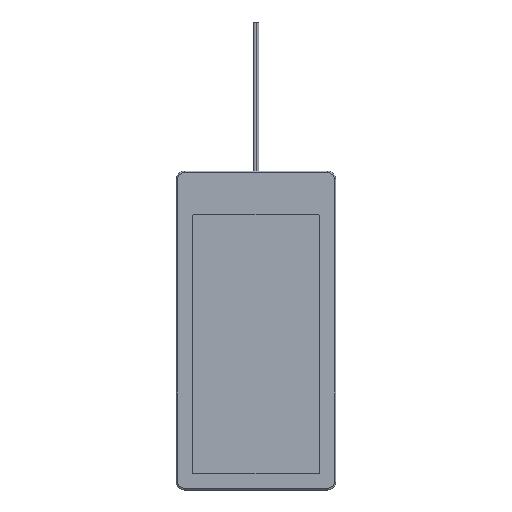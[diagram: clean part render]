
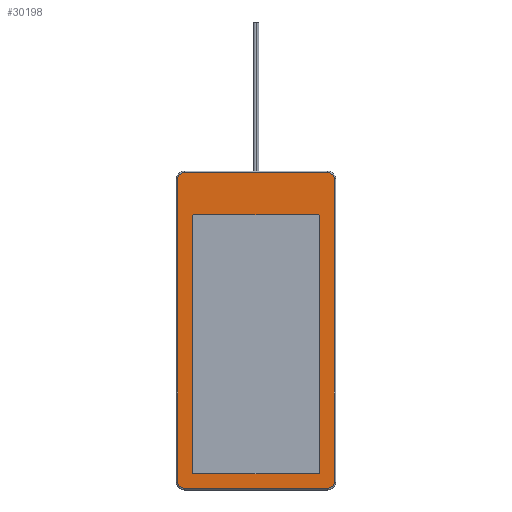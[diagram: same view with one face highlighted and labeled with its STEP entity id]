
A CAD part, top view. The second image highlights one B-rep face of the part: STEP entity #30198.
In plain terms, the highlighted planar face has unit normal (0, 0, 1).
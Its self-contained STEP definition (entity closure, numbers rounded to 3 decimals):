
#29429=DIRECTION('',(0.,-1.,0.));
#29430=VECTOR('',#29429,190.);
#29431=CARTESIAN_POINT('',(-48.551,597.406,6.5));
#29432=LINE('',#29431,#29430);
#29433=CARTESIAN_POINT('',(-44.551,597.406,6.5));
#29434=DIRECTION('',(0.,0.,1.));
#29435=DIRECTION('',(0.,1.,0.));
#29436=AXIS2_PLACEMENT_3D('',#29433,#29434,#29435);
#29438=DIRECTION('',(-1.,0.,0.));
#29439=VECTOR('',#29438,90.);
#29440=CARTESIAN_POINT('',(45.449,601.406,6.5));
#29441=LINE('',#29440,#29439);
#29442=CARTESIAN_POINT('',(45.449,597.406,6.5));
#29443=DIRECTION('',(0.,0.,1.));
#29444=DIRECTION('',(1.,0.,0.));
#29445=AXIS2_PLACEMENT_3D('',#29442,#29443,#29444);
#29447=DIRECTION('',(0.,1.,0.));
#29448=VECTOR('',#29447,190.);
#29449=CARTESIAN_POINT('',(49.449,407.406,6.5));
#29450=LINE('',#29449,#29448);
#29451=CARTESIAN_POINT('',(45.449,407.406,6.5));
#29452=DIRECTION('',(0.,0.,1.));
#29453=DIRECTION('',(0.,-1.,0.));
#29454=AXIS2_PLACEMENT_3D('',#29451,#29452,#29453);
#29456=DIRECTION('',(1.,0.,0.));
#29457=VECTOR('',#29456,90.);
#29458=CARTESIAN_POINT('',(-44.551,403.406,6.5));
#29459=LINE('',#29458,#29457);
#29460=CARTESIAN_POINT('',(-44.551,407.406,6.5));
#29461=DIRECTION('',(0.,0.,1.));
#29462=DIRECTION('',(-1.,0.,0.));
#29463=AXIS2_PLACEMENT_3D('',#29460,#29461,#29462);
#29465=DIRECTION('',(0.,1.,0.));
#29466=VECTOR('',#29465,160.55);
#29467=CARTESIAN_POINT('',(40.449,413.456,6.5));
#29468=LINE('',#29467,#29466);
#29469=DIRECTION('',(-1.,0.,0.));
#29470=VECTOR('',#29469,78.);
#29471=CARTESIAN_POINT('',(39.449,575.006,6.5));
#29472=LINE('',#29471,#29470);
#29473=DIRECTION('',(0.,-1.,0.));
#29474=VECTOR('',#29473,160.55);
#29475=CARTESIAN_POINT('',(-39.551,574.006,6.5));
#29476=LINE('',#29475,#29474);
#29477=DIRECTION('',(1.,0.,0.));
#29478=VECTOR('',#29477,78.);
#29479=CARTESIAN_POINT('',(-38.551,412.456,6.5));
#29480=LINE('',#29479,#29478);
#29889=CARTESIAN_POINT('',(-38.551,574.006,6.5));
#29890=DIRECTION('',(0.,0.,-1.));
#29891=DIRECTION('',(-1.,0.,0.));
#29892=AXIS2_PLACEMENT_3D('',#29889,#29890,#29891);
#29907=CARTESIAN_POINT('',(-38.551,413.456,6.5));
#29908=DIRECTION('',(0.,0.,-1.));
#29909=DIRECTION('',(0.,-1.,0.));
#29910=AXIS2_PLACEMENT_3D('',#29907,#29908,#29909);
#29925=CARTESIAN_POINT('',(39.449,413.456,6.5));
#29926=DIRECTION('',(0.,0.,-1.));
#29927=DIRECTION('',(1.,0.,0.));
#29928=AXIS2_PLACEMENT_3D('',#29925,#29926,#29927);
#29943=CARTESIAN_POINT('',(39.449,574.006,6.5));
#29944=DIRECTION('',(0.,0.,-1.));
#29945=DIRECTION('',(0.,1.,0.));
#29946=AXIS2_PLACEMENT_3D('',#29943,#29944,#29945);
#30045=CARTESIAN_POINT('',(-48.551,597.406,6.5));
#30046=CARTESIAN_POINT('',(-48.551,407.406,6.5));
#30047=VERTEX_POINT('',#30045);
#30048=VERTEX_POINT('',#30046);
#30053=CARTESIAN_POINT('',(-44.551,403.406,6.5));
#30054=VERTEX_POINT('',#30053);
#30057=CARTESIAN_POINT('',(45.449,403.406,6.5));
#30058=VERTEX_POINT('',#30057);
#30061=CARTESIAN_POINT('',(49.449,407.406,6.5));
#30062=VERTEX_POINT('',#30061);
#30065=CARTESIAN_POINT('',(49.449,597.406,6.5));
#30066=VERTEX_POINT('',#30065);
#30069=CARTESIAN_POINT('',(45.449,601.406,6.5));
#30070=VERTEX_POINT('',#30069);
#30073=CARTESIAN_POINT('',(-44.551,601.406,6.5));
#30074=VERTEX_POINT('',#30073);
#30125=CARTESIAN_POINT('',(-39.551,574.006,6.5));
#30127=VERTEX_POINT('',#30125);
#30129=CARTESIAN_POINT('',(-38.551,575.006,6.5));
#30131=VERTEX_POINT('',#30129);
#30133=CARTESIAN_POINT('',(39.449,575.006,6.5));
#30135=VERTEX_POINT('',#30133);
#30137=CARTESIAN_POINT('',(40.449,574.006,6.5));
#30139=VERTEX_POINT('',#30137);
#30141=CARTESIAN_POINT('',(40.449,413.456,6.5));
#30143=VERTEX_POINT('',#30141);
#30145=CARTESIAN_POINT('',(39.449,412.456,6.5));
#30147=VERTEX_POINT('',#30145);
#30149=CARTESIAN_POINT('',(-38.551,412.456,6.5));
#30151=VERTEX_POINT('',#30149);
#30153=CARTESIAN_POINT('',(-39.551,413.456,6.5));
#30155=VERTEX_POINT('',#30153);
#30157=CARTESIAN_POINT('',(0.449,502.006,6.5));
#30158=DIRECTION('',(0.,0.,1.));
#30159=DIRECTION('',(1.,0.,0.));
#30160=AXIS2_PLACEMENT_3D('',#30157,#30158,#30159);
#30161=PLANE('',#30160);
#30163=ORIENTED_EDGE('',*,*,#30162,.F.);
#30165=ORIENTED_EDGE('',*,*,#30164,.F.);
#30167=ORIENTED_EDGE('',*,*,#30166,.F.);
#30169=ORIENTED_EDGE('',*,*,#30168,.F.);
#30171=ORIENTED_EDGE('',*,*,#30170,.F.);
#30173=ORIENTED_EDGE('',*,*,#30172,.F.);
#30175=ORIENTED_EDGE('',*,*,#30174,.F.);
#30177=ORIENTED_EDGE('',*,*,#30176,.F.);
#30178=EDGE_LOOP('',(#30163,#30165,#30167,#30169,#30171,#30173,#30175,#30177));
#30179=FACE_OUTER_BOUND('',#30178,.F.);
#30181=ORIENTED_EDGE('',*,*,#30180,.T.);
#30183=ORIENTED_EDGE('',*,*,#30182,.F.);
#30185=ORIENTED_EDGE('',*,*,#30184,.T.);
#30187=ORIENTED_EDGE('',*,*,#30186,.F.);
#30189=ORIENTED_EDGE('',*,*,#30188,.T.);
#30191=ORIENTED_EDGE('',*,*,#30190,.F.);
#30193=ORIENTED_EDGE('',*,*,#30192,.T.);
#30195=ORIENTED_EDGE('',*,*,#30194,.F.);
#30196=EDGE_LOOP('',(#30181,#30183,#30185,#30187,#30189,#30191,#30193,#30195));
#30197=FACE_BOUND('',#30196,.F.);
#29437=CIRCLE('',#29436,4.);
#29446=CIRCLE('',#29445,4.);
#29455=CIRCLE('',#29454,4.);
#29464=CIRCLE('',#29463,4.);
#29893=CIRCLE('',#29892,1.);
#29911=CIRCLE('',#29910,1.);
#29929=CIRCLE('',#29928,1.);
#29947=CIRCLE('',#29946,1.);
#30162=EDGE_CURVE('',#30047,#30048,#29432,.T.);
#30164=EDGE_CURVE('',#30074,#30047,#29437,.T.);
#30166=EDGE_CURVE('',#30070,#30074,#29441,.T.);
#30168=EDGE_CURVE('',#30066,#30070,#29446,.T.);
#30170=EDGE_CURVE('',#30062,#30066,#29450,.T.);
#30172=EDGE_CURVE('',#30058,#30062,#29455,.T.);
#30174=EDGE_CURVE('',#30054,#30058,#29459,.T.);
#30176=EDGE_CURVE('',#30048,#30054,#29464,.T.);
#30180=EDGE_CURVE('',#30143,#30139,#29468,.T.);
#30182=EDGE_CURVE('',#30135,#30139,#29947,.T.);
#30184=EDGE_CURVE('',#30135,#30131,#29472,.T.);
#30186=EDGE_CURVE('',#30127,#30131,#29893,.T.);
#30188=EDGE_CURVE('',#30127,#30155,#29476,.T.);
#30190=EDGE_CURVE('',#30151,#30155,#29911,.T.);
#30192=EDGE_CURVE('',#30151,#30147,#29480,.T.);
#30194=EDGE_CURVE('',#30143,#30147,#29929,.T.);
#30198=ADVANCED_FACE('',(#30179,#30197),#30161,.T.);
